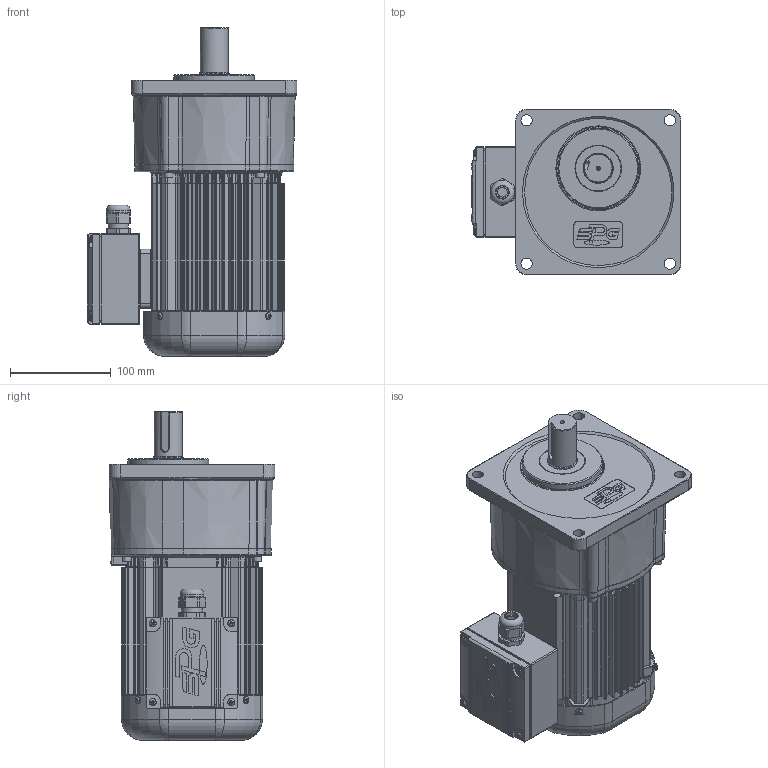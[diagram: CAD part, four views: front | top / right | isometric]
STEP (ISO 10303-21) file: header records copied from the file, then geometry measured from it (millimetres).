
FILE_DESCRIPTION(/* description */ (''),/* implementation_level */ '2;1');
FILE_NAME(/* name */ 'Z:\동력 3D 파일\PAK28_0.4kW_3D.stp',/* time_stamp */ '2021-11-09T08:42:12+09:00',/* author */ ('jaebok'),/* organization */ (''),/* preprocessor_version */ 'ST-DEVELOPER v18.1',/* originating_system */ 'Autodesk Inventor 2022',/* authorisation */ '');
FILE_SCHEMA (('AUTOMOTIVE_DESIGN { 1 0 10303 214 3 1 1 }'));
Products named in the file (1): 부품9
Bounding box: 208 x 164 x 326 mm (x, y, z)
Volume: 1753631.9 mm3; surface area: 569778.8 mm2
Topology: 2 solids, 34 shells, 3543 faces, 8855 edges, 5207 vertices
Faces by surface type: plane 1028, cylinder 951, bspline 836, torus 392, cone 208, sphere 128
Full cylindrical faces by diameter (mm): 2 x1, 3.242 x5, 3.25 x1, 3.5 x4, 3.6 x4, 4 x21, 4.2 x4, 4.917 x4, 5 x20, 5.386 x4, 5.5 x4, 6 x9, 7 x12, 8 x5, 8.5 x4, 10 x1, 12.5 x1, 15 x1, 18 x1, 19 x2, 20 x2, 21 x1, 23.6 x1, 25 x1, 27 x1, 28 x2, 29.6 x1, 30 x5, 31 x1, 32 x1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
Entity records: 139127 total; most frequent: CARTESIAN_POINT 56311, ORIENTED_EDGE 17170, DIRECTION 15752, EDGE_CURVE 8585, AXIS2_PLACEMENT_3D 6462, VERTEX_POINT 5207, EDGE_LOOP 3737, CIRCLE 3640
